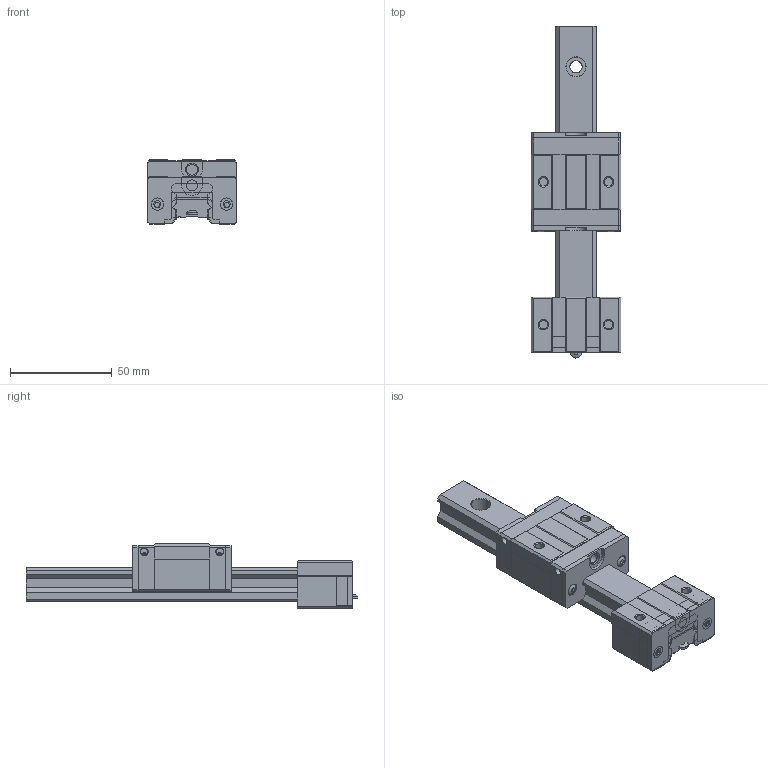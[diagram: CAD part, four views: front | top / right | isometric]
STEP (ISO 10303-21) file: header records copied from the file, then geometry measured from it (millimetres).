
FILE_DESCRIPTION( ( 'Unknown' ), '1' );
FILE_NAME( 'C:/Documents and Settings/USER/官帕 拳搁/沥脚 粱 瞒妨扼/20/SBI 20 SV.stp', 'Unknown', ( 'Unknown' ), ( 'Unknown' ), 'XStep 1.0', 'Unknown', ' ' );
FILE_SCHEMA( ( 'automotive_design' ) );
Length unit declared in the file: millimetre
Products named in the file (6): Assem1; RAIL; EP; ES; M3(5.5-2); SV
Bounding box: 44 x 162.75 x 31.45 mm (x, y, z)
Volume: 147781.4 mm3; surface area: 54244.6 mm2
Topology: 15 solids, 15 shells, 512 faces, 1317 edges, 865 vertices
Faces by surface type: plane 363, cylinder 112, cone 22, torus 10, bspline 5
Full cylindrical faces by diameter (mm): 1 x6, 2.459 x8, 3.4 x12, 3.5 x6, 4.134 x8, 5.333 x3, 5.5 x5, 6 x12, 6.4 x3, 9.5 x6
Entity records: 6210 total; most frequent: CARTESIAN_POINT 1077, DIRECTION 962, ORIENTED_EDGE 920, EDGE_CURVE 460, LINE 340, VECTOR 340, VERTEX_POINT 322, AXIS2_PLACEMENT_3D 311
